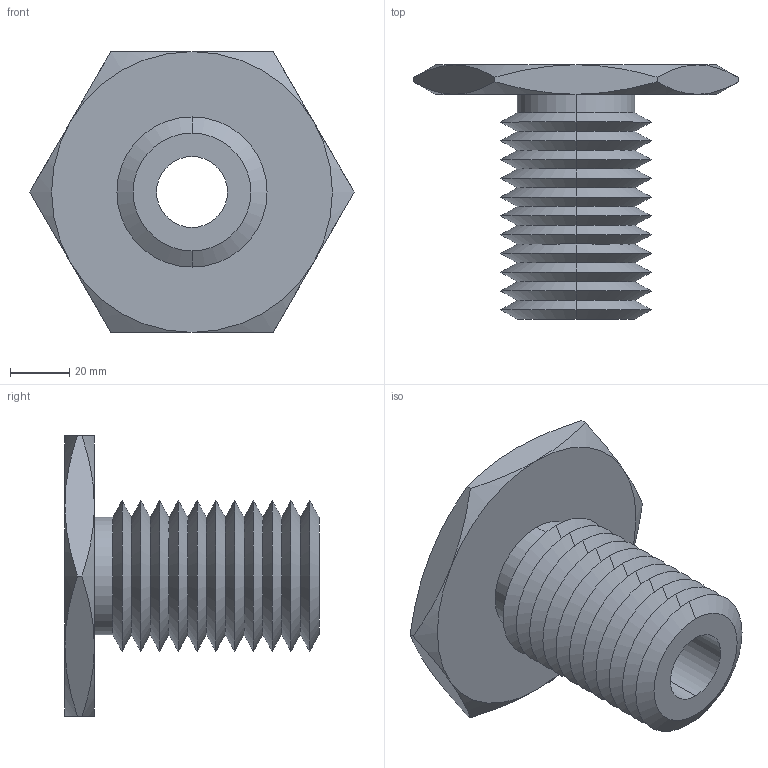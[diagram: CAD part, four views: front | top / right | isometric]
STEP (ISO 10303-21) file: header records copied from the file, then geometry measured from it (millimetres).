
FILE_DESCRIPTION (( 'STEP AP203' ), '1' );
FILE_NAME ('63302.W5200_M24x3.step', '2013-12-08T11:48:05', ( 'User' ), ( '' ), 'SwSTEP 2.0', 'SolidWorks 2009', '' );
FILE_SCHEMA (( 'CONFIG_CONTROL_DESIGN' ));
Length unit declared in the file: millimetre
Products named in the file (1): 63302.W5200_M24x3
Bounding box: 109.7 x 86 x 95 mm (x, y, z)
Volume: 157810.8 mm3; surface area: 44299.3 mm2
Topology: 1 solids, 1 shells, 71 faces, 146 edges, 78 vertices
Faces by surface type: cone 58, plane 9, cylinder 4
Entity records: 2071 total; most frequent: CARTESIAN_POINT 512, DIRECTION 332, ORIENTED_EDGE 292, EDGE_CURVE 146, AXIS2_PLACEMENT_3D 138, VERTEX_POINT 78, EDGE_LOOP 74, ADVANCED_FACE 71
